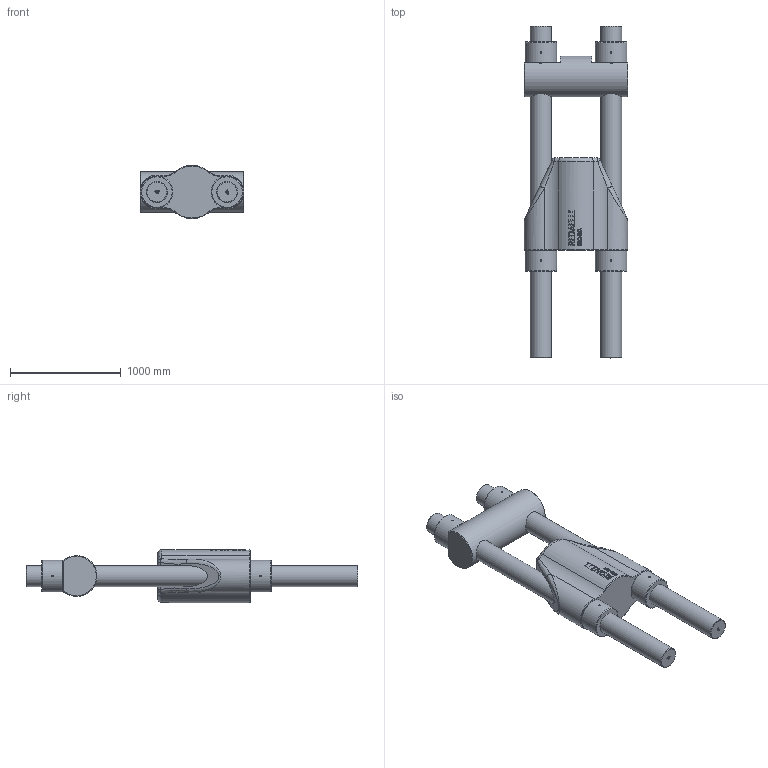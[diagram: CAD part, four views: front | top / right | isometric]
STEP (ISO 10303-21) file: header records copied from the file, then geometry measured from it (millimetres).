
FILE_DESCRIPTION(/* description */ (''),/* implementation_level */ '2;1');
FILE_NAME(/* name */ 'D:\Clienti\Redaelli (inventor)\BRC\STEP\Arrangemet\BRC152 72 111 0.stp',/* time_stamp */ '2021-05-08T08:50:04+02:00',/* author */ ('fabri'),/* organization */ (''),/* preprocessor_version */ 'ST-DEVELOPER v16.13',/* originating_system */ 'Autodesk Inventor 2018',/* authorisation */ '');
FILE_SCHEMA (('AUTOMOTIVE_DESIGN { 1 0 10303 214 3 1 1 }'));
Length unit declared in the file: millimetre
Products named in the file (5): BRC020 72 111 0; BRC020 71 112 0; BRC020 71 114 0_ROD; BRC020 71 113 0; BRC020 71 114 0_NUT
Assembly tree (8 placements, depth 2):
  BRC020 72 111 0
    BRC020 71 112 0
    BRC020 71 114 0_ROD  x2
    BRC020 71 113 0
    BRC020 71 114 0_NUT  x4
Bounding box: 938 x 3000 x 479.05 mm (x, y, z)
Volume: 458533850.5 mm3; surface area: 9351860.3 mm2
Topology: 8 solids, 8 shells, 1532 faces, 4167 edges, 2767 vertices
Faces by surface type: plane 791, bspline 619, cylinder 68, cone 30, torus 20, sphere 4
Full cylindrical faces by diameter (mm): 15 x16, 183.505 x4, 190 x2, 198 x4, 285 x4, 368 x1
Entity records: 30989 total; most frequent: CARTESIAN_POINT 11835, ORIENTED_EDGE 4514, DIRECTION 2799, EDGE_CURVE 2257, VERTEX_POINT 1504, LINE 1317, VECTOR 1317, EDGE_LOOP 945
